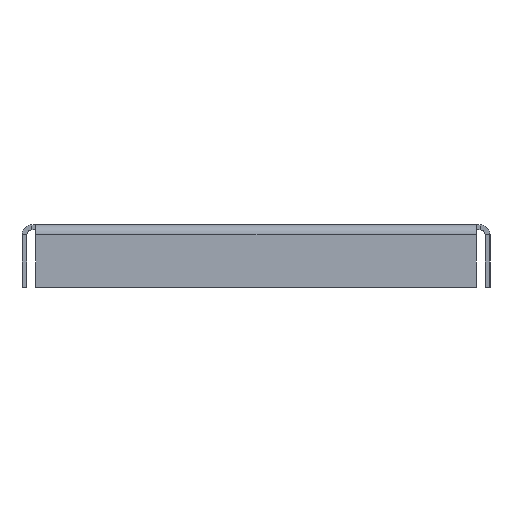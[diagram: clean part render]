
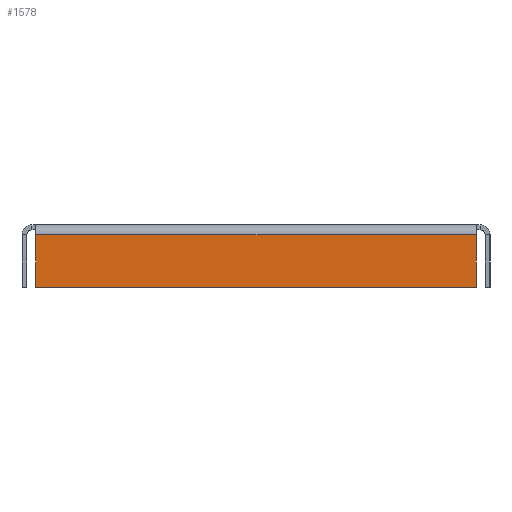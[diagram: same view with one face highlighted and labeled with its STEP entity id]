
A CAD part, left-side view. The second image highlights one B-rep face of the part: STEP entity #1578.
In plain terms, the highlighted planar face has unit normal (-1, 0, 0).
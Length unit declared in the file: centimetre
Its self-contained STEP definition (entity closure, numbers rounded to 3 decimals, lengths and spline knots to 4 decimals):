
#206=FACE_OUTER_BOUND('',#292,.T.);
#292=EDGE_LOOP('',(#1255,#1256,#1257,#1258));
#447=LINE('',#2514,#603);
#452=LINE('',#2527,#608);
#459=LINE('',#2545,#615);
#461=LINE('',#2548,#617);
#603=VECTOR('',#2065,1.);
#608=VECTOR('',#2076,0.112);
#615=VECTOR('',#2095,1.);
#617=VECTOR('',#2099,1.);
#763=VERTEX_POINT('',#2512);
#764=VERTEX_POINT('',#2513);
#769=VERTEX_POINT('',#2525);
#774=VERTEX_POINT('',#2544);
#947=EDGE_CURVE('',#763,#764,#447,.T.);
#954=EDGE_CURVE('',#764,#769,#452,.T.);
#963=EDGE_CURVE('',#774,#763,#459,.T.);
#965=EDGE_CURVE('',#769,#774,#461,.T.);
#1255=ORIENTED_EDGE('',*,*,#947,.T.);
#1256=ORIENTED_EDGE('',*,*,#954,.T.);
#1257=ORIENTED_EDGE('',*,*,#965,.T.);
#1258=ORIENTED_EDGE('',*,*,#963,.T.);
#1496=PLANE('',#1734);
#1578=ADVANCED_FACE('',(#206),#1496,.T.);
#1734=AXIS2_PLACEMENT_3D('',#2551,#2103,#2104);
#2065=DIRECTION('',(0.,1.,0.));
#2076=DIRECTION('',(0.,0.,-1.));
#2095=DIRECTION('',(0.,0.,1.));
#2099=DIRECTION('',(0.,-1.,0.));
#2103=DIRECTION('center_axis',(-1.,0.,0.));
#2104=DIRECTION('ref_axis',(0.,0.,1.));
#2512=CARTESIAN_POINT('',(0.,-3.53,4.34));
#2513=CARTESIAN_POINT('',(0.,3.53,4.34));
#2514=CARTESIAN_POINT('',(0.,0.,4.34));
#2525=CARTESIAN_POINT('',(0.,3.53,3.5));
#2527=CARTESIAN_POINT('',(0.,3.53,4.6919));
#2544=CARTESIAN_POINT('',(0.,-3.53,3.5));
#2545=CARTESIAN_POINT('',(0.,-3.53,4.34));
#2548=CARTESIAN_POINT('',(0.,-3.53,3.5));
#2551=CARTESIAN_POINT('Origin',(0.,0.,4.008));
